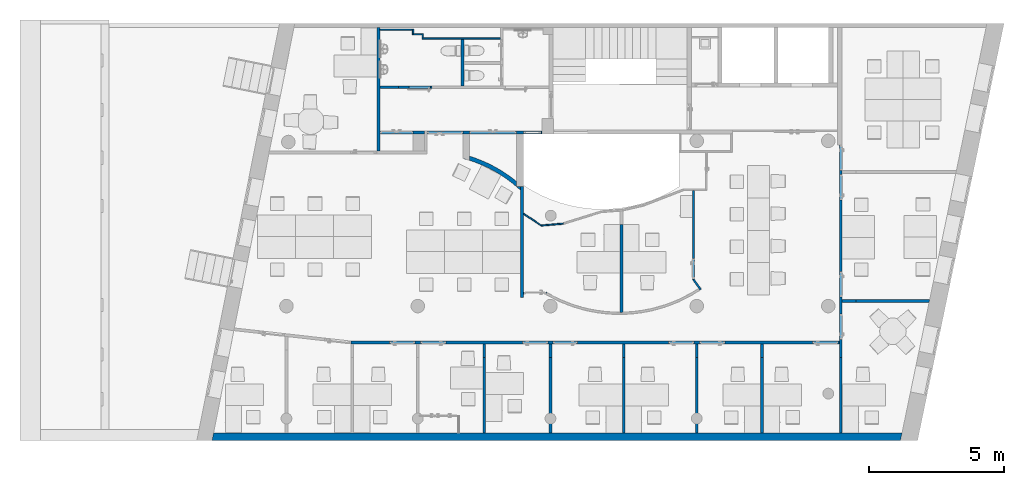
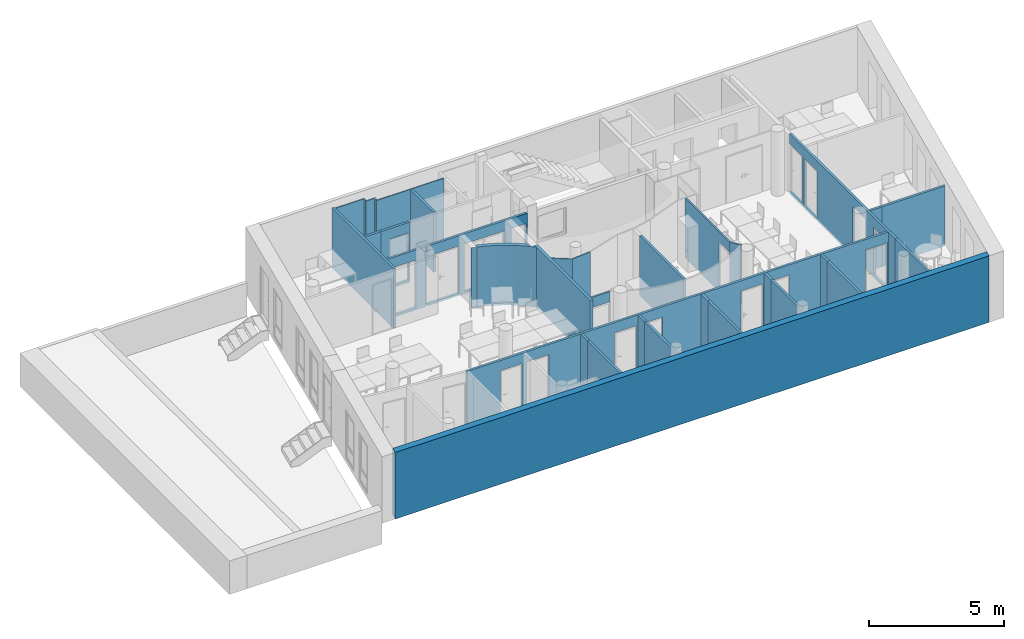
"""IFC4 building model written with IfcOpenShell, lengths in metres."""

from ifc_helpers import new_model, entity, si_unit, converted_unit, derived_unit, frame, frame_2d, origin, origin_with_axes, place, context, subcontext, project, spatial, polyline, rectangle, outline, extrude, material, layer, layer_set, layer_usage, element, save


model = new_model("IFC4")

# Units and contexts
model_context = context("Model", 3, precision=1e-05, world=origin())
body_context = subcontext(model_context, "Body", "Model", "MODEL_VIEW")
ifc_project = project(units=[si_unit("LENGTHUNIT", "METRE"), si_unit("AREAUNIT", "SQUARE_METRE"), si_unit("VOLUMEUNIT", "CUBIC_METRE"), si_unit("MASSUNIT", "GRAM", prefix="KILO"), converted_unit("PLANEANGLEUNIT", "DEGREE", entity("IfcPlaneAngleMeasure", 0.0174532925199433), si_unit("PLANEANGLEUNIT", "RADIAN"), dimensions=[0, 0, 0, 0, 0, 0, 0]), derived_unit("THERMALTRANSMITTANCEUNIT", [(si_unit("POWERUNIT", "WATT"), 1), (si_unit("THERMODYNAMICTEMPERATUREUNIT", "KELVIN"), -1), (si_unit("LENGTHUNIT", "METRE"), -2)]), derived_unit("VOLUMETRICFLOWRATEUNIT", [(si_unit("LENGTHUNIT", "METRE"), 3), (converted_unit("TIMEUNIT", "hour", entity("IfcTimeMeasure", 3600.0), si_unit("TIMEUNIT", "SECOND"), dimensions=[0, 0, 1, 0, 0, 0, 0]), -1), (si_unit("LENGTHUNIT", "METRE"), -1)])], contexts=[model_context])

# Building, storeys
building_placement = place(None, origin())
building = spatial("IfcBuilding", under=ifc_project, at=building_placement, Name="HABITATGE PLURIFAMILIAR", CompositionType="ELEMENT")
storey_1_placement = place(building_placement, frame((0.0, 0.0, 6.25)))
storey_1 = spatial("IfcBuildingStorey", under=building, at=storey_1_placement, Name="PLANTA PRIMERA", CompositionType="ELEMENT", Elevation=6.25)
storey_2_placement = place(storey_1_placement, frame((0.0, 0.0, 3.35)))
storey_2 = spatial("IfcBuildingStorey", under=storey_1, at=storey_2_placement, Name="NOU", CompositionType="PARTIAL")

# Wall, opening
ifc_material_1 = material()
ifc_layer_1 = layer(ifc_material_1, 0.07)
ifc_layer_set_1 = layer_set([ifc_layer_1])
ifc_layer_usage_1 = layer_usage(ifc_layer_set_1, "AXIS2", "POSITIVE", 0.0)
wall_1_placement = place(storey_2_placement, frame((410.592735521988, 18.3095984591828, -3.35), z_axis=(0.0, 0.0, 1.0), x_axis=(-1.0, 0.0, 0.0)))
wall_1 = element("IfcWall", 1, at=wall_1_placement, inside=storey_2, material=ifc_layer_usage_1, Name="Envans P1", context=body_context, shape_type="SweptSolid", body=[
    extrude(outline(polyline([(-0.845750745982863, -0.07), (0.0, -0.07), (0.0, 0.0), (-0.80460284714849, 0.0), (-0.845750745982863, -0.07)])), frame((0.845750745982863, 0.07, 0.0), z_axis=(0.0, 0.0, 1.0), x_axis=(1.0, 0.0, 0.0)), (0.0, 0.0, 1.0), 2.61),
])
opening_1_placement = place(wall_1_placement, frame((0.843483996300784, 0.07, 0.0), z_axis=(0.0, -1.0, 0.0), x_axis=(0.0, 0.0, 1.0)))
element("IfcOpeningElement", 2, at=opening_1_placement, cuts=wall_1, Name="Vano de puerta P1", ObjectType="Opening", context=body_context, shape_type="SweptSolid", body=[
    extrude(outline(polyline([(2.15, 0.825227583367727), (2.15, 0.0), (0.0, 0.0), (0.0, 0.825227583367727), (2.15, 0.825227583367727)])), origin_with_axes(), (0.0, 0.0, 1.0), 0.07),
])

# Wall
ifc_material_2 = material()
ifc_layer_2 = layer(ifc_material_2, 0.0699999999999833)
ifc_layer_set_2 = layer_set([ifc_layer_2])
ifc_layer_usage_2 = layer_usage(ifc_layer_set_2, "AXIS2", "POSITIVE", 0.0)
wall_2_placement = place(storey_2_placement, frame((416.305890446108, 18.4330973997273, -3.45), z_axis=(0.0, 0.0, 1.0), x_axis=(-0.579903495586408, 0.814685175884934, 0.0)))
element("IfcWall", 3, at=wall_2_placement, inside=storey_2, material=ifc_layer_usage_2, Name="Envans P1", context=body_context, shape_type="SweptSolid", body=[
    extrude(outline(polyline([(-0.156841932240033, -0.290341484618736), (0.287180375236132, -0.290341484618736), (0.309549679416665, -0.220341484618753), (-0.156841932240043, -0.22034148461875), (-0.156841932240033, -0.290341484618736)])), frame((0.156841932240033, 0.290341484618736, 0.0), z_axis=(0.0, 0.0, 1.0), x_axis=(1.0, 0.0, 0.0)), (0.0, 0.0, 1.0), 2.71),
])

# Wall, opening
ifc_material_3 = material()
ifc_layer_3 = layer(ifc_material_3, 0.0700000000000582)
ifc_layer_set_3 = layer_set([ifc_layer_3])
ifc_layer_usage_3 = layer_usage(ifc_layer_set_3, "AXIS2", "POSITIVE", 0.0)
wall_3_placement = place(storey_2_placement, frame((416.048400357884, 18.7948357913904, -3.45), z_axis=(0.0, 0.0, 1.0), x_axis=(0.0, 1.0, 0.0)))
wall_3 = element("IfcWall", 4, at=wall_3_placement, inside=storey_2, material=ifc_layer_usage_3, Name="Envans P1", context=body_context, shape_type="SweptSolid", body=[
    extrude(outline(polyline([(0.0223693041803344, -0.0700000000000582), (3.29699337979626, -0.0700000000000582), (3.29699337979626, 0.0), (0.0, 0.0), (0.0223693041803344, -0.0700000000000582)])), frame((-0.0223693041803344, 0.0700000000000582, 0.0), z_axis=(0.0, 0.0, 1.0), x_axis=(1.0, 0.0, 0.0)), (0.0, 0.0, 1.0), 2.71),
])
opening_2_placement = place(wall_3_placement, frame((0.770436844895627, 0.0700000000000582, 0.1), z_axis=(0.0, -1.0, 0.0), x_axis=(0.0, 0.0, 1.0)))
element("IfcOpeningElement", 5, at=opening_2_placement, cuts=wall_3, Name="Vano de puerta P1", ObjectType="Opening", context=body_context, shape_type="SweptSolid", body=[
    extrude(outline(polyline([(2.15, 0.7675111), (2.15, 0.0), (0.0, 0.0), (0.0, 0.7675111), (2.15, 0.7675111)])), origin_with_axes(), (0.0, 0.0, 1.0), 0.0700000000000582),
])

# Walls
ifc_material_4 = material()
ifc_layer_4 = layer(ifc_material_4, 0.1)
ifc_layer_set_4 = layer_set([ifc_layer_4])
ifc_layer_usage_4 = layer_usage(ifc_layer_set_4, "AXIS2", "POSITIVE", 0.0)
wall_4_placement = place(storey_2_placement, frame((407.439729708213, 27.6494598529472, -3.45), z_axis=(0.0, 0.0, 1.0), x_axis=(0.0, -1.0, 0.0)))
element("IfcWall", 6, at=wall_4_placement, inside=storey_2, material=ifc_layer_usage_4, Name="Envans P1", context=body_context, shape_type="SweptSolid", body=[
    extrude(rectangle(XDim=1.71999999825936, YDim=0.1, at=frame_2d((0.859999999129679, 0.05), x_axis=(1.0, 0.0))), origin_with_axes(), (0.0, 0.0, 1.0), 2.71),
])
ifc_material_5 = material()
ifc_layer_5 = layer(ifc_material_5, 0.1)
ifc_layer_set_5 = layer_set([ifc_layer_5])
ifc_layer_usage_5 = layer_usage(ifc_layer_set_5, "AXIS2", "POSITIVE", 0.0)
wall_5_placement = place(storey_2_placement, frame((404.436617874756, 23.5194598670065, -3.45), z_axis=(0.0, 0.0, 1.0), x_axis=(0.0, 1.0, 0.0)))
element("IfcWall", 7, at=wall_5_placement, inside=storey_2, material=ifc_layer_usage_5, Name="Envans P1", context=body_context, shape_type="SweptSolid", body=[
    extrude(rectangle(XDim=4.55878803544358, YDim=0.1, at=frame_2d((2.27939401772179, 0.05), x_axis=(1.0, 0.0))), origin_with_axes(), (0.0, 0.0, 1.0), 2.71),
])
ifc_material_6 = material()
ifc_layer_6 = layer(ifc_material_6, 0.05)
ifc_layer_set_6 = layer_set([ifc_layer_6])
ifc_layer_usage_6 = layer_usage(ifc_layer_set_6, "AXIS2", "POSITIVE", 0.0)
wall_6_placement = place(storey_2_placement, frame((405.997121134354, 27.6494598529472, -3.45)))
element("IfcWall", 8, at=wall_6_placement, inside=storey_2, material=ifc_layer_usage_6, Name="Envans P1", context=body_context, shape_type="SweptSolid", body=[
    extrude(rectangle(XDim=2.89035253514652, YDim=0.05, at=frame_2d((1.44517626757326, 0.025), x_axis=(1.0, 0.0))), origin_with_axes(), (0.0, 0.0, 1.0), 2.71),
])
ifc_material_7 = material()
ifc_layer_7 = layer(ifc_material_7, 0.05)
ifc_layer_set_7 = layer_set([ifc_layer_7])
ifc_layer_usage_7 = layer_usage(ifc_layer_set_7, "AXIS2", "POSITIVE", 0.0)
wall_7_placement = place(storey_2_placement, frame((405.997121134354, 27.8614867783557, -3.45), z_axis=(0.0, 0.0, 1.0), x_axis=(0.0, -1.0, 0.0)))
element("IfcWall", 9, at=wall_7_placement, inside=storey_2, material=ifc_layer_usage_7, Name="Envans P1", context=body_context, shape_type="SweptSolid", body=[
    extrude(rectangle(XDim=0.162026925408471, YDim=0.05, at=frame_2d((0.0810134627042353, 0.025), x_axis=(1.0, 0.0))), origin_with_axes(), (0.0, 0.0, 1.0), 2.71),
])
ifc_material_8 = material()
ifc_layer_8 = layer(ifc_material_8, 0.05)
ifc_layer_set_8 = layer_set([ifc_layer_8])
ifc_layer_usage_8 = layer_usage(ifc_layer_set_8, "AXIS2", "POSITIVE", 0.0)
wall_8_placement = place(storey_2_placement, frame((405.637301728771, 27.8114867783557, -3.45)))
element("IfcWall", 10, at=wall_8_placement, inside=storey_2, material=ifc_layer_usage_8, Name="Envans P1", context=body_context, shape_type="SweptSolid", body=[
    extrude(rectangle(XDim=0.359819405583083, YDim=0.05, at=frame_2d((0.179909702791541, 0.025), x_axis=(1.0, 0.0))), origin_with_axes(), (0.0, 0.0, 1.0), 2.71),
])
ifc_material_9 = material()
ifc_layer_9 = layer(ifc_material_9, 0.05)
ifc_layer_set_9 = layer_set([ifc_layer_9])
ifc_layer_usage_9 = layer_usage(ifc_layer_set_9, "AXIS2", "POSITIVE", 0.0)
wall_9_placement = place(storey_2_placement, frame((405.637301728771, 28.0294598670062, -3.45), z_axis=(0.0, 0.0, 1.0), x_axis=(0.0, -1.0, 0.0)))
element("IfcWall", 11, at=wall_9_placement, inside=storey_2, material=ifc_layer_usage_9, Name="Envans P1", context=body_context, shape_type="SweptSolid", body=[
    extrude(rectangle(XDim=0.167973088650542, YDim=0.05, at=frame_2d((0.0839865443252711, 0.025), x_axis=(1.0, 0.0))), origin_with_axes(), (0.0, 0.0, 1.0), 2.71),
])
ifc_material_10 = material()
ifc_layer_10 = layer(ifc_material_10, 0.05)
ifc_layer_set_10 = layer_set([ifc_layer_10])
ifc_layer_usage_10 = layer_usage(ifc_layer_set_10, "AXIS2", "POSITIVE", 0.0)
wall_10_placement = place(storey_2_placement, frame((404.436617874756, 27.9794598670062, -3.45)))
element("IfcWall", 12, at=wall_10_placement, inside=storey_2, material=ifc_layer_usage_10, Name="Envans P1", context=body_context, shape_type="SweptSolid", body=[
    extrude(rectangle(XDim=1.20068385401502, YDim=0.05, at=frame_2d((0.60034192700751, 0.025), x_axis=(1.0, 0.0))), origin_with_axes(), (0.0, 0.0, 1.0), 2.71),
])
ifc_material_11 = material()
ifc_layer_11 = layer(ifc_material_11, 0.0500000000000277)
ifc_layer_set_11 = layer_set([ifc_layer_11])
ifc_layer_usage_11 = layer_usage(ifc_layer_set_11, "AXIS2", "POSITIVE", 0.0)
wall_11_placement = place(storey_2_placement, frame((409.749444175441, 21.1746103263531, -3.45), z_axis=(0.0, 0.0, 1.0), x_axis=(0.831739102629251, -0.555166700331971, 0.0)))
element("IfcWall", 13, at=wall_11_placement, inside=storey_2, material=ifc_layer_usage_11, Name="Mampara P1", context=body_context, shape_type="SweptSolid", body=[
    extrude(outline(polyline([(-0.236029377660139, 0.353614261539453), (0.529777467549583, 0.353614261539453), (0.512359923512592, 0.403614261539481), (-0.269403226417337, 0.403614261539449), (-0.236029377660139, 0.353614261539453)])), frame((0.236029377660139, -0.353614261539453, 0.0), z_axis=(0.0, 0.0, 1.0), x_axis=(1.0, 0.0, 0.0)), (0.0, 0.0, 1.0), 2.71),
])
ifc_material_12 = material()
ifc_layer_12 = layer(ifc_material_12, 0.0500000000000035)
ifc_layer_set_12 = layer_set([ifc_layer_12])
ifc_layer_usage_12 = layer_usage(ifc_layer_set_12, "AXIS2", "POSITIVE", 0.0)
wall_12_placement = place(storey_2_placement, frame((410.386395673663, 20.7494598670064, -3.45), z_axis=(0.0, 0.0, 1.0), x_axis=(0.996349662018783, 0.0853659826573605, 0.0)))
element("IfcWall", 14, at=wall_12_placement, inside=storey_2, material=ifc_layer_usage_12, Name="Mampara P1", context=body_context, shape_type="SweptSolid", body=[
    extrude(outline(polyline([(0.0, 0.0), (0.823174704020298, 0.0), (0.823174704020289, 0.0500000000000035), (0.017519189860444, 0.0499999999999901), (0.0175986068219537, 0.0499365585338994), (0.0, 0.0)])), origin_with_axes(), (0.0, 0.0, 1.0), 2.71),
])
ifc_material_13 = material()
ifc_layer_13 = layer(ifc_material_13, 0.1)
ifc_layer_set_13 = layer_set([ifc_layer_13])
ifc_layer_usage_13 = layer_usage(ifc_layer_set_13, "AXIS2", "POSITIVE", 0.0)
wall_13_placement = place(storey_2_placement, frame((404.436617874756, 25.8294598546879, -3.45)))
element("IfcWall", 15, at=wall_13_placement, inside=storey_2, material=ifc_layer_usage_13, Name="Envans P1", context=body_context, shape_type="SweptSolid", body=[
    extrude(rectangle(XDim=0.693032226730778, YDim=0.1, at=frame_2d((0.346516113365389, 0.05), x_axis=(1.0, 0.0))), origin_with_axes(), (0.0, 0.0, 1.0), 2.71),
])
ifc_material_14 = material()
ifc_layer_14 = layer(ifc_material_14, 0.12)
ifc_layer_set_14 = layer_set([ifc_layer_14])
ifc_layer_usage_14 = layer_usage(ifc_layer_set_14, "AXIS2", "POSITIVE", 0.0)
wall_14_placement = place(storey_2_placement, frame((409.746984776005, 18.1094598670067, -3.45), z_axis=(0.0, 0.0, 1.0), x_axis=(0.0, 1.0, 0.0)))
element("IfcWall", 16, at=wall_14_placement, inside=storey_2, material=ifc_layer_usage_14, Name="Envans P1", context=body_context, shape_type="SweptSolid", body=[
    extrude(rectangle(XDim=4.10016590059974, YDim=0.12, at=frame_2d((2.05008295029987, 0.06), x_axis=(1.0, 0.0))), origin_with_axes(), (0.0, 0.0, 1.0), 2.71),
])
wall_15_placement = place(storey_2_placement, frame((406.238996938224, 18.4530629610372, -3.45)))
element("IfcWall", 17, at=wall_15_placement, inside=storey_2, Name="Envans P1", context=body_context, shape_type="SweptSolid", body=[
    extrude(outline(polyline([(1.58149447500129, 0.132345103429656), (1.73999999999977, 0.0), (1.73999999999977, 0.195412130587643), (1.67461725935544, 0.250003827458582), (1.46047951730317, 0.410551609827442), (1.23823282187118, 0.559672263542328), (1.00848633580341, 0.696957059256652), (0.771869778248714, 0.822029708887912), (0.529031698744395, 0.934547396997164), (0.280637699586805, 1.0342017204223), (0.027368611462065, 1.12071953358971), (0.0, 1.1284952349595), (0.0, 0.971558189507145), (0.228431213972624, 0.893525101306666), (0.469534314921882, 0.796795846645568), (0.705244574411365, 0.68758079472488), (0.934915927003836, 0.566179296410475), (1.15791885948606, 0.432924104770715), (1.37364213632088, 0.288180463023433), (1.58149447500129, 0.132345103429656)])), frame((1.4979878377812, 3.7585175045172, 0.0), z_axis=(0.0, 0.0, 1.0), x_axis=(1.0, 0.0, 0.0)), (0.0, 0.0, 1.0), 2.71),
    extrude(outline(polyline([(0.038565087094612, 0.10123578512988), (0.147658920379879, 0.0), (0.147658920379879, 0.133435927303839), (0.0, 0.133435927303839), (0.038565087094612, 0.10123578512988)])), frame((3.24032891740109, 3.62312687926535, 0.0), z_axis=(0.0, 0.0, 1.0), x_axis=(1.0, 0.0, 0.0)), (0.0, 0.0, 1.0), 2.71),
    extrude(outline(polyline([(0.0, 0.0603991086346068), (0.212590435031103, 0.0), (0.00296358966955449, 0.0716094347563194), (0.0, 0.0603991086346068)])), frame((1.26799352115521, 4.73602093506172, 0.0), z_axis=(0.0, 0.0, 1.0), x_axis=(1.0, 0.0, 0.0)), (0.0, 0.0, 1.0), 2.71),
])

# Wall, openings
ifc_material_15 = material()
ifc_layer_15 = layer(ifc_material_15, 0.1)
ifc_layer_set_15 = layer_set([ifc_layer_15])
ifc_layer_usage_15 = layer_usage(ifc_layer_set_15, "AXIS2", "POSITIVE", 0.0)
wall_16_placement = place(storey_2_placement, frame((410.426984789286, 24.2594598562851, -3.45), z_axis=(0.0, 0.0, 1.0), x_axis=(-1.0, 0.0, 0.0)))
wall_16 = element("IfcWall", 18, at=wall_16_placement, inside=storey_2, material=ifc_layer_usage_15, Name="Envans P1", context=body_context, shape_type="SweptSolid", body=[
    extrude(outline(polyline([(-5.99000001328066, -0.1), (0.0, -0.1), (0.0, 0.0), (-1.63999999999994, 0.0), (-1.63999999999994, -0.0977698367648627), (-1.74, -0.0977698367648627), (-1.74, 0.0), (-5.99000001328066, 0.0), (-5.99000001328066, -0.1)])), frame((5.99000001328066, 0.1, 0.0), z_axis=(0.0, 0.0, 1.0), x_axis=(1.0, 0.0, 0.0)), (0.0, 0.0, 1.0), 2.71),
])
opening_3_placement = place(wall_16_placement, frame((4.25000001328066, 0.1, 0.1), z_axis=(0.0, 0.0, 1.0), x_axis=(-1.0, 0.0, 0.0)))
element("IfcOpeningElement", 19, at=opening_3_placement, cuts=wall_16, Name="Vano de puerta P1", ObjectType="Opening", context=body_context, shape_type="SweptSolid", body=[
    extrude(outline(polyline([(0.0, 0.0), (1.33, 0.0), (1.33311274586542, 0.1), (0.0, 0.1), (0.0, 0.0)])), origin_with_axes(), (0.0, 0.0, 1.0), 2.15),
])
opening_4_placement = place(wall_16_placement, frame((5.99036691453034, 0.1, 0.1), z_axis=(0.0, -1.0, 0.0), x_axis=(0.0, 0.0, 1.0)))
element("IfcOpeningElement", 20, at=opening_4_placement, cuts=wall_16, Name="Vano de puerta P1", ObjectType="Opening", context=body_context, shape_type="SweptSolid", body=[
    extrude(outline(polyline([(2.15, 1.23), (2.15, 0.0), (0.0, 0.0), (0.0, 1.23), (2.15, 1.23)])), origin_with_axes(), (0.0, 0.0, 1.0), 0.1),
])
opening_5_placement = place(wall_16_placement, frame((0.679999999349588, 0.1, 0.1), z_axis=(0.0, -1.0, 0.0), x_axis=(0.0, 0.0, 1.0)))
element("IfcOpeningElement", 21, at=opening_5_placement, cuts=wall_16, Name="Vano de puerta P1", ObjectType="Opening", context=body_context, shape_type="SweptSolid", body=[
    extrude(outline(polyline([(2.15, 0.629999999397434), (2.15, 0.0), (0.0, 0.0), (0.0, 0.629999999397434), (2.15, 0.629999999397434)])), origin_with_axes(), (0.0, 0.0, 1.0), 0.1),
])
opening_6_placement = place(wall_16_placement, frame((2.69000001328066, 0.1, 0.1), z_axis=(0.0, -1.0, 0.0), x_axis=(0.0, 0.0, 1.0)))
element("IfcOpeningElement", 22, at=opening_6_placement, cuts=wall_16, Name="Vano de puerta P1", ObjectType="Opening", context=body_context, shape_type="SweptSolid", body=[
    extrude(outline(polyline([(2.15, 1.73999999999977), (2.15, 0.0), (0.0, 0.0), (0.0, 1.73999999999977), (2.15, 1.73999999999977)])), origin_with_axes(), (0.0, 0.0, 1.0), 0.1),
])

# Wall
ifc_material_16 = material()
ifc_layer_16 = layer(ifc_material_16, 0.28)
ifc_layer_set_16 = layer_set([ifc_layer_16])
ifc_layer_usage_16 = layer_usage(ifc_layer_set_16, "AXIS2", "POSITIVE", 0.0)
wall_17_placement = place(storey_2_placement, frame((398.241737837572, 12.8406121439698, -3.45)))
element("IfcWall", 23, at=wall_17_placement, inside=storey_2, material=ifc_layer_usage_16, Name="Mur P1", context=body_context, shape_type="SweptSolid", body=[
    extrude(outline(polyline([(0.0, 0.0), (25.4157442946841, 0.0), (25.4737713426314, 0.28), (0.0554752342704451, 0.28), (0.0, 0.0)])), origin_with_axes(), (0.0, 0.0, 1.0), 3.01),
])

# Wall, openings
ifc_material_17 = material()
ifc_layer_17 = layer(ifc_material_17, 0.1)
ifc_layer_set_17 = layer_set([ifc_layer_17])
ifc_layer_usage_17 = layer_usage(ifc_layer_set_17, "AXIS2", "POSITIVE", 0.0)
wall_18_placement = place(storey_2_placement, frame((421.406984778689, 16.5094598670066, -3.45), z_axis=(0.0, 0.0, 1.0), x_axis=(-1.0, 0.0, 0.0)))
wall_18 = element("IfcWall", 24, at=wall_18_placement, inside=storey_2, material=ifc_layer_usage_17, Name="Mampara P1", context=body_context, shape_type="SweptSolid", body=[
    extrude(outline(polyline([(-18.0374183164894, -0.1), (-0.00561454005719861, -0.1), (0.0, 0.0), (-15.1276972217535, 0.0), (-15.1276972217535, -0.000949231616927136), (-15.2276972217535, -0.000949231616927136), (-15.2276972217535, 0.0), (-18.0374183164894, 0.0), (-18.0374183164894, -0.1)])), frame((18.0374183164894, 0.1, 0.0), z_axis=(0.0, 0.0, 1.0), x_axis=(1.0, 0.0, 0.0)), (0.0, 0.0, 1.0), 2.71),
])
opening_7_placement = place(wall_18_placement, frame((0.99, 0.1, 0.1), z_axis=(0.0, -1.0, 0.0), x_axis=(0.0, 0.0, 1.0)))
element("IfcOpeningElement", 25, at=opening_7_placement, cuts=wall_18, Name="Vano de puerta P1", ObjectType="Opening", context=body_context, shape_type="SweptSolid", body=[
    extrude(outline(polyline([(2.15, 0.94), (2.15, 0.0), (0.0, 0.0), (0.0, 0.94), (2.15, 0.94)])), origin_with_axes(), (0.0, 0.0, 1.0), 0.1),
])
opening_8_placement = place(wall_18_placement, frame((4.22887875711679, 0.0, 0.1), z_axis=(0.0, 1.0, 0.0), x_axis=(0.0, 0.0, 1.0)))
element("IfcOpeningElement", 26, at=opening_8_placement, cuts=wall_18, Name="Vano de puerta P1", ObjectType="Opening", context=body_context, shape_type="SweptSolid", body=[
    extrude(outline(polyline([(2.15, 0.94), (2.15, 0.0), (0.0, 0.0), (0.0, 0.94), (2.15, 0.94)])), origin_with_axes(), (0.0, 0.0, 1.0), 0.1),
])
opening_9_placement = place(wall_18_placement, frame((5.36887875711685, 0.0, 0.1), z_axis=(0.0, 1.0, 0.0), x_axis=(0.0, 0.0, 1.0)))
element("IfcOpeningElement", 27, at=opening_9_placement, cuts=wall_18, Name="Vano de puerta P1", ObjectType="Opening", context=body_context, shape_type="SweptSolid", body=[
    extrude(outline(polyline([(2.15, 0.94), (2.15, 0.0), (0.0, 0.0), (0.0, 0.94), (2.15, 0.94)])), origin_with_axes(), (0.0, 0.0, 1.0), 0.1),
])
opening_10_placement = place(wall_18_placement, frame((9.6709060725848, 0.0, 0.1), z_axis=(0.0, 1.0, 0.0), x_axis=(0.0, 0.0, 1.0)))
element("IfcOpeningElement", 28, at=opening_10_placement, cuts=wall_18, Name="Vano de puerta P1", ObjectType="Opening", context=body_context, shape_type="SweptSolid", body=[
    extrude(outline(polyline([(2.15, 0.899999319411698), (2.15, 0.0), (0.0, 0.0), (0.0, 0.899999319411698), (2.15, 0.899999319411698)])), origin_with_axes(), (0.0, 0.0, 1.0), 0.1),
])
opening_11_placement = place(wall_18_placement, frame((10.7720101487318, 0.0, 0.1), z_axis=(0.0, 1.0, 0.0), x_axis=(0.0, 0.0, 1.0)))
element("IfcOpeningElement", 29, at=opening_11_placement, cuts=wall_18, Name="Vano de puerta P1", ObjectType="Opening", context=body_context, shape_type="SweptSolid", body=[
    extrude(outline(polyline([(2.15, 0.94), (2.15, 0.0), (0.0, 0.0), (0.0, 0.94), (2.15, 0.94)])), origin_with_axes(), (0.0, 0.0, 1.0), 0.1),
])
opening_12_placement = place(wall_18_placement, frame((14.5286824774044, 0.0, 0.1), z_axis=(0.0, 1.0, 0.0), x_axis=(0.0, 0.0, 1.0)))
element("IfcOpeningElement", 30, at=opening_12_placement, cuts=wall_18, Name="Vano de puerta P1", ObjectType="Opening", context=body_context, shape_type="SweptSolid", body=[
    extrude(outline(polyline([(2.15, 0.94), (2.15, 0.0), (0.0, 0.0), (0.0, 0.94), (2.15, 0.94)])), origin_with_axes(), (0.0, 0.0, 1.0), 0.1),
])
opening_13_placement = place(wall_18_placement, frame((15.6697872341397, 0.0, 0.1), z_axis=(0.0, 1.0, 0.0), x_axis=(0.0, 0.0, 1.0)))
element("IfcOpeningElement", 31, at=opening_13_placement, cuts=wall_18, Name="Vano de puerta P1", ObjectType="Opening", context=body_context, shape_type="SweptSolid", body=[
    extrude(outline(polyline([(2.15, 0.94), (2.15, 0.0), (0.0, 0.0), (0.0, 0.94), (2.15, 0.94)])), origin_with_axes(), (0.0, 0.0, 1.0), 0.1),
])

# Walls
ifc_material_18 = material()
ifc_layer_18 = layer(ifc_material_18, 0.1)
ifc_layer_set_18 = layer_set([ifc_layer_18])
ifc_layer_usage_18 = layer_usage(ifc_layer_set_18, "AXIS2", "POSITIVE", 0.0)
wall_19_placement = place(storey_2_placement, frame((408.23734354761, 15.9094598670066, -3.45), z_axis=(0.0, 0.0, 1.0), x_axis=(0.0, -1.0, 0.0)))
element("IfcWall", 32, at=wall_19_placement, inside=storey_2, material=ifc_layer_usage_18, Name="Envans P1", context=body_context, shape_type="SweptSolid", body=[
    extrude(rectangle(XDim=2.78884772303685, YDim=0.1, at=frame_2d((1.39442386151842, 0.05), x_axis=(1.0, 0.0))), origin_with_axes(), (0.0, 0.0, 1.0), 2.71),
])
ifc_material_19 = material()
ifc_layer_19 = layer(ifc_material_19, 0.1)
ifc_layer_set_19 = layer_set([ifc_layer_19])
ifc_layer_usage_19 = layer_usage(ifc_layer_set_19, "AXIS2", "POSITIVE", 0.0)
wall_20_placement = place(storey_2_placement, frame((410.684974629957, 15.9094598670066, -3.45), z_axis=(0.0, 0.0, 1.0), x_axis=(0.0, -1.0, 0.0)))
element("IfcWall", 33, at=wall_20_placement, inside=storey_2, material=ifc_layer_usage_19, Name="Envans P1", context=body_context, shape_type="SweptSolid", body=[
    extrude(rectangle(XDim=2.78884772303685, YDim=0.1, at=frame_2d((1.39442386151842, 0.05), x_axis=(1.0, 0.0))), origin_with_axes(), (0.0, 0.0, 1.0), 2.71),
])
ifc_material_20 = material()
ifc_layer_20 = layer(ifc_material_20, 0.1)
ifc_layer_set_20 = layer_set([ifc_layer_20])
ifc_layer_usage_20 = layer_usage(ifc_layer_set_20, "AXIS2", "POSITIVE", 0.0)
wall_21_placement = place(storey_2_placement, frame((416.088106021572, 15.9094598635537, -3.45), z_axis=(0.0, 0.0, 1.0), x_axis=(0.0, -1.0, 0.0)))
element("IfcWall", 34, at=wall_21_placement, inside=storey_2, material=ifc_layer_usage_20, Name="Envans P1", context=body_context, shape_type="SweptSolid", body=[
    extrude(rectangle(XDim=2.78884771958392, YDim=0.1, at=frame_2d((1.39442385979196, 0.05), x_axis=(1.0, 0.0))), origin_with_axes(), (0.0, 0.0, 1.0), 2.71),
])
ifc_material_21 = material()
ifc_layer_21 = layer(ifc_material_21, 0.1)
ifc_layer_set_21 = layer_set([ifc_layer_21])
ifc_layer_usage_21 = layer_usage(ifc_layer_set_21, "AXIS2", "POSITIVE", 0.0)
wall_22_placement = place(storey_2_placement, frame((418.497263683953, 15.9094598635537, -3.45), z_axis=(0.0, 0.0, 1.0), x_axis=(0.0, -1.0, 0.0)))
element("IfcWall", 35, at=wall_22_placement, inside=storey_2, material=ifc_layer_usage_21, Name="Envans P1", context=body_context, shape_type="SweptSolid", body=[
    extrude(rectangle(XDim=2.78884771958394, YDim=0.1, at=frame_2d((1.39442385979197, 0.05), x_axis=(1.0, 0.0))), origin_with_axes(), (0.0, 0.0, 1.0), 2.71),
])
ifc_material_22 = material()
ifc_layer_22 = layer(ifc_material_22, 0.1)
ifc_layer_set_22 = layer_set([ifc_layer_22])
ifc_layer_usage_22 = layer_usage(ifc_layer_set_22, "AXIS2", "POSITIVE", 0.0)
wall_23_placement = place(storey_2_placement, frame((418.497263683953, 16.4104090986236, -3.45), z_axis=(0.0, 0.0, 1.0), x_axis=(0.0, -1.0, 0.0)))
element("IfcWall", 36, at=wall_23_placement, inside=storey_2, material=ifc_layer_usage_22, Name="Mampara P1", context=body_context, shape_type="SweptSolid", body=[
    extrude(rectangle(XDim=0.500949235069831, YDim=0.1, at=frame_2d((0.250474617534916, 0.05), x_axis=(1.0, 0.0))), origin_with_axes(), (0.0, 0.0, 1.0), 2.71),
])
ifc_material_23 = material()
ifc_layer_23 = layer(ifc_material_23, 0.1)
ifc_layer_set_23 = layer_set([ifc_layer_23])
ifc_layer_usage_23 = layer_usage(ifc_layer_set_23, "AXIS2", "POSITIVE", 0.0)
wall_24_placement = place(storey_2_placement, frame((416.088106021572, 16.4094598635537, -3.45), z_axis=(0.0, 0.0, 1.0), x_axis=(0.0, -1.0, 0.0)))
element("IfcWall", 37, at=wall_24_placement, inside=storey_2, material=ifc_layer_usage_23, Name="Mampara P1", context=body_context, shape_type="SweptSolid", body=[
    extrude(rectangle(XDim=0.5, YDim=0.1, at=frame_2d((0.25, 0.05), x_axis=(1.0, 0.0))), origin_with_axes(), (0.0, 0.0, 1.0), 2.71),
])
ifc_material_24 = material()
ifc_layer_24 = layer(ifc_material_24, 0.1)
ifc_layer_set_24 = layer_set([ifc_layer_24])
ifc_layer_usage_24 = layer_usage(ifc_layer_set_24, "AXIS2", "POSITIVE", 0.0)
wall_25_placement = place(storey_2_placement, frame((410.684974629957, 16.4094598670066, -3.45), z_axis=(0.0, 0.0, 1.0), x_axis=(0.0, -1.0, 0.0)))
element("IfcWall", 38, at=wall_25_placement, inside=storey_2, material=ifc_layer_usage_24, Name="Mampara P1", context=body_context, shape_type="SweptSolid", body=[
    extrude(rectangle(XDim=0.5, YDim=0.1, at=frame_2d((0.25, 0.05), x_axis=(1.0, 0.0))), origin_with_axes(), (0.0, 0.0, 1.0), 2.71),
])
ifc_material_25 = material()
ifc_layer_25 = layer(ifc_material_25, 0.1)
ifc_layer_set_25 = layer_set([ifc_layer_25])
ifc_layer_usage_25 = layer_usage(ifc_layer_set_25, "AXIS2", "POSITIVE", 0.0)
wall_26_placement = place(storey_2_placement, frame((408.23734354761, 16.4094598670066, -3.45), z_axis=(0.0, 0.0, 1.0), x_axis=(0.0, -1.0, 0.0)))
element("IfcWall", 39, at=wall_26_placement, inside=storey_2, material=ifc_layer_usage_25, Name="Mampara P1", context=body_context, shape_type="SweptSolid", body=[
    extrude(rectangle(XDim=0.5, YDim=0.1, at=frame_2d((0.25, 0.05), x_axis=(1.0, 0.0))), origin_with_axes(), (0.0, 0.0, 1.0), 2.71),
])
ifc_material_26 = material()
ifc_layer_26 = layer(ifc_material_26, 0.1)
ifc_layer_set_26 = layer_set([ifc_layer_26])
ifc_layer_usage_26 = layer_usage(ifc_layer_set_26, "AXIS2", "POSITIVE", 0.0)
wall_27_placement = place(storey_2_placement, frame((421.406984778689, 15.9115613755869, -3.45), z_axis=(0.0, 0.0, 1.0), x_axis=(0.0, -1.0, 0.0)))
element("IfcWall", 40, at=wall_27_placement, inside=storey_2, material=ifc_layer_usage_26, Name="Envans P1", context=body_context, shape_type="SweptSolid", body=[
    extrude(rectangle(XDim=2.7909492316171, YDim=0.1, at=frame_2d((1.39547461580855, 0.05), x_axis=(1.0, 0.0))), origin_with_axes(), (0.0, 0.0, 1.0), 2.71),
])

# Wall, openings
ifc_material_27 = material()
ifc_layer_27 = layer(ifc_material_27, 0.1)
ifc_layer_set_27 = layer_set([ifc_layer_27])
ifc_layer_usage_27 = layer_usage(ifc_layer_set_27, "AXIS2", "POSITIVE", 0.0)
wall_28_placement = place(storey_2_placement, frame((421.406984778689, 23.7407426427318, -3.45), z_axis=(0.0, 0.0, 1.0), x_axis=(-2.97388239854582e-14, -1.0, 0.0)))
wall_28 = element("IfcWall", 41, at=wall_28_placement, inside=storey_2, material=ifc_layer_usage_27, Name="Mampara P1", context=body_context, shape_type="SweptSolid", body=[
    extrude(rectangle(XDim=7.82918126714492, YDim=0.1, at=frame_2d((3.91459063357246, 0.05), x_axis=(1.0, 0.0))), origin_with_axes(), (0.0, 0.0, 1.0), 2.71),
])
opening_14_placement = place(wall_28_placement, frame((0.940000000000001, 0.100000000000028, 0.1), z_axis=(2.95585778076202e-14, -1.0, 0.0), x_axis=(0.0, 0.0, 1.0)))
element("IfcOpeningElement", 42, at=opening_14_placement, cuts=wall_28, Name="Vano de puerta P1", ObjectType="Opening", context=body_context, shape_type="SweptSolid", body=[
    extrude(outline(polyline([(2.15, 0.940000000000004), (2.15, 0.0), (0.0, 0.0), (0.0, 0.940000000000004), (2.15, 0.940000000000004)])), origin_with_axes(), (0.0, 0.0, 1.0), 0.1),
])
opening_15_placement = place(wall_28_placement, frame((7.17128276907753, 0.0999999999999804, 0.1), z_axis=(-4.54747350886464e-14, -1.0, 0.0), x_axis=(0.0, 0.0, 1.0)))
element("IfcOpeningElement", 43, at=opening_15_placement, cuts=wall_28, Name="Vano de puerta P1", ObjectType="Opening", context=body_context, shape_type="SweptSolid", body=[
    extrude(outline(polyline([(2.15, 0.94), (2.15, 0.0), (0.0, 0.0), (0.0, 0.94), (2.15, 0.94)])), origin_with_axes(), (0.0, 0.0, 1.0), 0.1),
])
opening_16_placement = place(wall_28_placement, frame((2.03, 0.099999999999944, 0.1), z_axis=(-4.32009983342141e-14, -1.0, 0.0), x_axis=(0.0, 0.0, 1.0)))
element("IfcOpeningElement", 44, at=opening_16_placement, cuts=wall_28, Name="Vano de puerta P1", ObjectType="Opening", context=body_context, shape_type="SweptSolid", body=[
    extrude(outline(polyline([(2.15, 0.94), (2.15, 0.0), (0.0, 0.0), (0.0, 0.94), (2.15, 0.94)])), origin_with_axes(), (0.0, 0.0, 1.0), 0.1),
])
opening_17_placement = place(wall_28_placement, frame((5.60128276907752, 0.099999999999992, 0.1), z_axis=(2.72848410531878e-14, -1.0, 0.0), x_axis=(0.0, 0.0, 1.0)))
element("IfcOpeningElement", 45, at=opening_17_placement, cuts=wall_28, Name="Vano de puerta P1", ObjectType="Opening", context=body_context, shape_type="SweptSolid", body=[
    extrude(outline(polyline([(2.15, 0.94), (2.15, 0.0), (0.0, 0.0), (0.0, 0.94), (2.15, 0.94)])), origin_with_axes(), (0.0, 0.0, 1.0), 0.1),
])

# Wall, opening
ifc_material_28 = material()
ifc_layer_28 = layer(ifc_material_28, 0.1)
ifc_layer_set_28 = layer_set([ifc_layer_28])
ifc_layer_usage_28 = layer_usage(ifc_layer_set_28, "AXIS2", "POSITIVE", 0.0)
wall_29_placement = place(storey_2_placement, frame((405.129650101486, 25.8294598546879, -3.45)))
wall_29 = element("IfcWall", 46, at=wall_29_placement, inside=storey_2, material=ifc_layer_usage_28, Name="Envans P1", context=body_context, shape_type="SweptSolid", body=[
    extrude(rectangle(XDim=1.23655993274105, YDim=0.1, at=frame_2d((0.618279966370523, 0.05), x_axis=(1.0, 0.0))), origin_with_axes(), (0.0, 0.0, 1.0), 2.71),
])
opening_18_placement = place(wall_29_placement, frame((1.1799606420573, 0.1, 0.1), z_axis=(0.0, -1.0, 0.0), x_axis=(0.0, 0.0, 1.0)))
element("IfcOpeningElement", 47, at=opening_18_placement, cuts=wall_29, Name="Vano de puerta P1", ObjectType="Opening", context=body_context, shape_type="SweptSolid", body=[
    extrude(outline(polyline([(2.15, 0.79404624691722), (2.15, 0.0), (0.0, 0.0), (0.0, 0.79404624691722), (2.15, 0.79404624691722)])), origin_with_axes(), (0.0, 0.0, 1.0), 0.1),
])

# Walls
ifc_material_29 = material()
ifc_layer_29 = layer(ifc_material_29, 0.1)
ifc_layer_set_29 = layer_set([ifc_layer_29])
ifc_layer_usage_29 = layer_usage(ifc_layer_set_29, "AXIS2", "POSITIVE", 0.0)
wall_30_placement = place(storey_2_placement, frame((422.006984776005, 17.9394598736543, -3.45)))
element("IfcWall", 48, at=wall_30_placement, inside=storey_2, material=ifc_layer_usage_29, Name="Envans P1", context=body_context, shape_type="SweptSolid", body=[
    extrude(outline(polyline([(0.0, 0.0), (2.70717979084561, 0.0), (2.72790373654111, 0.1), (0.0, 0.1), (0.0, 0.0)])), origin_with_axes(), (0.0, 0.0, 1.0), 2.71),
])
ifc_material_30 = material()
ifc_layer_30 = layer(ifc_material_30, 0.1)
ifc_layer_set_30 = layer_set([ifc_layer_30])
ifc_layer_usage_30 = layer_usage(ifc_layer_set_30, "AXIS2", "POSITIVE", 0.0)
wall_31_placement = place(storey_2_placement, frame((421.506984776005, 17.9394598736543, -3.45)))
element("IfcWall", 49, at=wall_31_placement, inside=storey_2, material=ifc_layer_usage_30, Name="Mampara P1", context=body_context, shape_type="SweptSolid", body=[
    extrude(rectangle(XDim=0.5, YDim=0.1, at=frame_2d((0.25, 0.05), x_axis=(1.0, 0.0))), origin_with_axes(), (0.0, 0.0, 1.0), 2.71),
])
ifc_material_31 = material()
ifc_layer_31 = layer(ifc_material_31, 0.1)
ifc_layer_set_31 = layer_set([ifc_layer_31])
ifc_layer_usage_31 = layer_usage(ifc_layer_set_31, "AXIS2", "POSITIVE", 0.0)
wall_32_placement = place(storey_2_placement, frame((413.387424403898, 15.9094598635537, -3.45), z_axis=(0.0, 0.0, 1.0), x_axis=(0.0, -1.0, 0.0)))
element("IfcWall", 50, at=wall_32_placement, inside=storey_2, material=ifc_layer_usage_31, Name="Envans P1", context=body_context, shape_type="SweptSolid", body=[
    extrude(rectangle(XDim=2.78884771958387, YDim=0.1, at=frame_2d((1.39442385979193, 0.05), x_axis=(1.0, 0.0))), origin_with_axes(), (0.0, 0.0, 1.0), 2.71),
])
ifc_material_32 = material()
ifc_layer_32 = layer(ifc_material_32, 0.1)
ifc_layer_set_32 = layer_set([ifc_layer_32])
ifc_layer_usage_32 = layer_usage(ifc_layer_set_32, "AXIS2", "POSITIVE", 0.0)
wall_33_placement = place(storey_2_placement, frame((413.387424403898, 16.4094598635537, -3.45), z_axis=(0.0, 0.0, 1.0), x_axis=(0.0, -1.0, 0.0)))
element("IfcWall", 51, at=wall_33_placement, inside=storey_2, material=ifc_layer_usage_32, Name="Mampara P1", context=body_context, shape_type="SweptSolid", body=[
    extrude(rectangle(XDim=0.5, YDim=0.1, at=frame_2d((0.25, 0.05), x_axis=(1.0, 0.0))), origin_with_axes(), (0.0, 0.0, 1.0), 2.71),
])
ifc_material_33 = material()
ifc_layer_33 = layer(ifc_material_33, 0.1)
ifc_layer_set_33 = layer_set([ifc_layer_33])
ifc_layer_usage_33 = layer_usage(ifc_layer_set_33, "AXIS2", "POSITIVE", 0.0)
wall_34_placement = place(storey_2_placement, frame((413.306608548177, 20.8200229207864, -3.45), z_axis=(0.0, 0.0, 1.0), x_axis=(0.0, -1.0, 0.0)))
element("IfcWall", 52, at=wall_34_placement, inside=storey_2, material=ifc_layer_usage_33, Name="Envans P1", context=body_context, shape_type="SweptSolid", body=[
    extrude(outline(polyline([(-3.24877458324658, 0.0), (0.0, 0.0), (-0.00281603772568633, 0.1), (-3.24877458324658, 0.1), (-3.24877458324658, 0.0)])), frame((3.24877458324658, 0.0, 0.0), z_axis=(0.0, 0.0, 1.0), x_axis=(1.0, 0.0, 0.0)), (0.0, 0.0, 1.0), 2.71),
])

save(model, "model.ifc")
